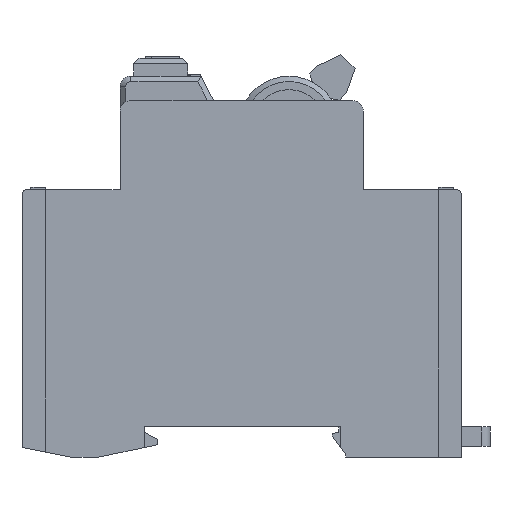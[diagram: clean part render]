
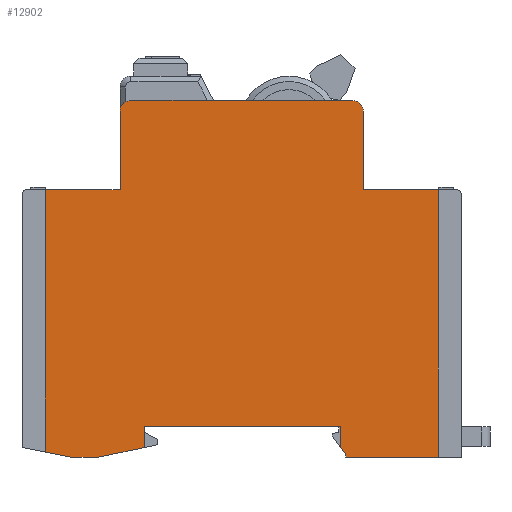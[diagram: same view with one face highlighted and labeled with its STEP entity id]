
A CAD part, left-side view. The second image highlights one B-rep face of the part: STEP entity #12902.
In plain terms, the highlighted planar face has unit normal (-1, 0, 0).
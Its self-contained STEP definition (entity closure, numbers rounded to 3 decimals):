
#23 = DIRECTION ( 'NONE',  ( 0., 0., 1. ) ) ;
#24 = DIRECTION ( 'NONE',  ( -1., 0., 0. ) ) ;
#25 = DIRECTION ( 'NONE',  ( 0., 0., -1. ) ) ;
#26 = CARTESIAN_POINT ( 'NONE',  ( -18., -22.5, 16.5 ) ) ;
#27 = LINE ( 'NONE', #26, #11887 ) ;
#28 = DIRECTION ( 'NONE',  ( 0., -1., 0. ) ) ;
#29 = CARTESIAN_POINT ( 'NONE',  ( -18., -40.65, 33. ) ) ;
#30 = LINE ( 'NONE', #29, #11902 ) ;
#31 = CARTESIAN_POINT ( 'NONE',  ( -18., -20.5, 31. ) ) ;
#32 = DIRECTION ( 'NONE',  ( 0., 0., 1. ) ) ;
#33 = DIRECTION ( 'NONE',  ( -1., 0., 0. ) ) ;
#34 = DIRECTION ( 'NONE',  ( 0., 0., -1. ) ) ;
#35 = CARTESIAN_POINT ( 'NONE',  ( -18., 22.5, 16.5 ) ) ;
#36 = LINE ( 'NONE', #35, #11939 ) ;
#37 = DIRECTION ( 'NONE',  ( 0., 0., 1. ) ) ;
#38 = CARTESIAN_POINT ( 'NONE',  ( -18., 36.35, -33. ) ) ;
#39 = LINE ( 'NONE', #38, #11901 ) ;
#40 = DIRECTION ( 'NONE',  ( 0., -0.981, -0.196 ) ) ;
#41 = CARTESIAN_POINT ( 'NONE',  ( -18., 31.65, -33. ) ) ;
#43 = LINE ( 'NONE', #41, #12265 ) ;
#44 = DIRECTION ( 'NONE',  ( 0., 1., 0. ) ) ;
#45 = CARTESIAN_POINT ( 'NONE',  ( -18., -40.65, -33. ) ) ;
#46 = LINE ( 'NONE', #45, #12266 ) ;
#47 = DIRECTION ( 'NONE',  ( 0., -0.979, 0.205 ) ) ;
#48 = CARTESIAN_POINT ( 'NONE',  ( -18., 26.5, -33. ) ) ;
#49 = LINE ( 'NONE', #48, #11917 ) ;
#50 = DIRECTION ( 'NONE',  ( 0., 0., 1. ) ) ;
#51 = CARTESIAN_POINT ( 'NONE',  ( -18., 18., -28.4 ) ) ;
#52 = LINE ( 'NONE', #51, #12204 ) ;
#53 = DIRECTION ( 'NONE',  ( 0., -1., 0. ) ) ;
#54 = CARTESIAN_POINT ( 'NONE',  ( -18., 18., -27.4 ) ) ;
#55 = LINE ( 'NONE', #54, #12272 ) ;
#56 = DIRECTION ( 'NONE',  ( 0., 0., 1. ) ) ;
#57 = CARTESIAN_POINT ( 'NONE',  ( -18., -18.3, -44.845 ) ) ;
#58 = LINE ( 'NONE', #57, #12409 ) ;
#59 = DIRECTION ( 'NONE',  ( 0., -0.592, -0.806 ) ) ;
#60 = CARTESIAN_POINT ( 'NONE',  ( -18., -16.8, -29.1 ) ) ;
#61 = LINE ( 'NONE', #60, #12442 ) ;
#62 = DIRECTION ( 'NONE',  ( 0., 0., -1. ) ) ;
#63 = CARTESIAN_POINT ( 'NONE',  ( -18., -19.3, -32.5 ) ) ;
#64 = LINE ( 'NONE', #63, #12193 ) ;
#65 = DIRECTION ( 'NONE',  ( 0., 1., 0. ) ) ;
#66 = CARTESIAN_POINT ( 'NONE',  ( -18., -40.65, -33. ) ) ;
#67 = LINE ( 'NONE', #66, #12575 ) ;
#68 = DIRECTION ( 'NONE',  ( 0., 0., 1. ) ) ;
#69 = CARTESIAN_POINT ( 'NONE',  ( -18., -36.35, -33. ) ) ;
#70 = LINE ( 'NONE', #69, #11933 ) ;
#89 = CARTESIAN_POINT ( 'NONE',  ( -18., 20.5, 31. ) ) ;
#5627 = DIRECTION ( 'NONE',  ( 0., -1., 0. ) ) ;
#5628 = CARTESIAN_POINT ( 'NONE',  ( -18., -40.65, 16.5 ) ) ;
#5629 = LINE ( 'NONE', #5628, #16456 ) ;
#5956 = DIRECTION ( 'NONE',  ( 0., 0., 1. ) ) ;
#5957 = DIRECTION ( 'NONE',  ( -1., 0., 0. ) ) ;
#5958 = CARTESIAN_POINT ( 'NONE',  ( -18., 0., 0. ) ) ;
#5959 = PLANE ( 'NONE',  #16535 ) ;
#6145 = CARTESIAN_POINT ( 'NONE',  ( -18., -22.5, 16.5 ) ) ;
#6146 = CARTESIAN_POINT ( 'NONE',  ( -18., -36.35, 16.5 ) ) ;
#6177 = CARTESIAN_POINT ( 'NONE',  ( -18., 36.35, 16.5 ) ) ;
#6178 = CARTESIAN_POINT ( 'NONE',  ( -18., 22.5, 16.5 ) ) ;
#6209 = CARTESIAN_POINT ( 'NONE',  ( -18., -22.5, 31. ) ) ;
#6210 = CARTESIAN_POINT ( 'NONE',  ( -18., -20.5, 33. ) ) ;
#6211 = CARTESIAN_POINT ( 'NONE',  ( -18., 20.5, 33. ) ) ;
#6212 = CARTESIAN_POINT ( 'NONE',  ( -18., 22.5, 31. ) ) ;
#6213 = CARTESIAN_POINT ( 'NONE',  ( -18., 36.35, -32.06 ) ) ;
#6214 = CARTESIAN_POINT ( 'NONE',  ( -18., 31.65, -33. ) ) ;
#6215 = CARTESIAN_POINT ( 'NONE',  ( -18., 26.5, -33. ) ) ;
#6216 = CARTESIAN_POINT ( 'NONE',  ( -18., 18., -31.223 ) ) ;
#6217 = CARTESIAN_POINT ( 'NONE',  ( -18., 18., -27.4 ) ) ;
#6218 = CARTESIAN_POINT ( 'NONE',  ( -18., -18.3, -27.4 ) ) ;
#6219 = CARTESIAN_POINT ( 'NONE',  ( -18., -18.3, -31.14 ) ) ;
#6220 = CARTESIAN_POINT ( 'NONE',  ( -18., -19.3, -32.5 ) ) ;
#6221 = CARTESIAN_POINT ( 'NONE',  ( -18., -19.3, -33. ) ) ;
#6222 = CARTESIAN_POINT ( 'NONE',  ( -18., -36.35, -33. ) ) ;
#6752 = EDGE_LOOP ( 'NONE', ( #8348, #8346, #8347, #8345, #8344, #8343, #8342, #8340, #8341, #8339, #8338, #8337, #8336, #8335, #8334, #8333, #8332, #8331 ) ) ;
#7094 = LINE ( 'NONE', #7095, #11924 ) ;
#7095 = CARTESIAN_POINT ( 'NONE',  ( -18., 40.65, 16.5 ) ) ;
#7096 = DIRECTION ( 'NONE',  ( 0., 1., 0. ) ) ;
#8331 = ORIENTED_EDGE ( 'NONE', *, *, #12943, .F. ) ;
#8332 = ORIENTED_EDGE ( 'NONE', *, *, #13211, .T. ) ;
#8333 = ORIENTED_EDGE ( 'NONE', *, *, #13212, .F. ) ;
#8334 = ORIENTED_EDGE ( 'NONE', *, *, #13213, .T. ) ;
#8335 = ORIENTED_EDGE ( 'NONE', *, *, #13214, .T. ) ;
#8336 = ORIENTED_EDGE ( 'NONE', *, *, #13215, .F. ) ;
#8337 = ORIENTED_EDGE ( 'NONE', *, *, #13216, .T. ) ;
#8338 = ORIENTED_EDGE ( 'NONE', *, *, #13217, .T. ) ;
#8339 = ORIENTED_EDGE ( 'NONE', *, *, #13218, .T. ) ;
#8340 = ORIENTED_EDGE ( 'NONE', *, *, #13220, .T. ) ;
#8341 = ORIENTED_EDGE ( 'NONE', *, *, #13219, .F. ) ;
#8342 = ORIENTED_EDGE ( 'NONE', *, *, #13221, .F. ) ;
#8343 = ORIENTED_EDGE ( 'NONE', *, *, #13273, .T. ) ;
#8344 = ORIENTED_EDGE ( 'NONE', *, *, #13222, .T. ) ;
#8345 = ORIENTED_EDGE ( 'NONE', *, *, #13223, .T. ) ;
#8346 = ORIENTED_EDGE ( 'NONE', *, *, #13226, .T. ) ;
#8347 = ORIENTED_EDGE ( 'NONE', *, *, #13224, .F. ) ;
#8348 = ORIENTED_EDGE ( 'NONE', *, *, #13225, .F. ) ;
#9690 = VERTEX_POINT ( 'NONE', #6222 ) ;
#9691 = VERTEX_POINT ( 'NONE', #6221 ) ;
#9692 = VERTEX_POINT ( 'NONE', #6220 ) ;
#9693 = VERTEX_POINT ( 'NONE', #6219 ) ;
#9694 = VERTEX_POINT ( 'NONE', #6218 ) ;
#9695 = VERTEX_POINT ( 'NONE', #6217 ) ;
#9696 = VERTEX_POINT ( 'NONE', #6216 ) ;
#9697 = VERTEX_POINT ( 'NONE', #6215 ) ;
#9698 = VERTEX_POINT ( 'NONE', #6214 ) ;
#9699 = VERTEX_POINT ( 'NONE', #6213 ) ;
#9700 = VERTEX_POINT ( 'NONE', #6212 ) ;
#9701 = VERTEX_POINT ( 'NONE', #6211 ) ;
#9702 = VERTEX_POINT ( 'NONE', #6210 ) ;
#9703 = VERTEX_POINT ( 'NONE', #6209 ) ;
#9735 = VERTEX_POINT ( 'NONE', #6178 ) ;
#9736 = VERTEX_POINT ( 'NONE', #6177 ) ;
#9767 = VERTEX_POINT ( 'NONE', #6146 ) ;
#9768 = VERTEX_POINT ( 'NONE', #6145 ) ;
#11887 = VECTOR ( 'NONE', #25, 1000. ) ;
#11893 = AXIS2_PLACEMENT_3D ( 'NONE', #31, #24, #23 ) ;
#11901 = VECTOR ( 'NONE', #37, 1000. ) ;
#11902 = VECTOR ( 'NONE', #28, 1000. ) ;
#11917 = VECTOR ( 'NONE', #47, 1000. ) ;
#11924 = VECTOR ( 'NONE', #7096, 1000. ) ;
#11933 = VECTOR ( 'NONE', #68, 1000. ) ;
#11939 = VECTOR ( 'NONE', #34, 1000. ) ;
#12193 = VECTOR ( 'NONE', #62, 1000. ) ;
#12204 = VECTOR ( 'NONE', #50, 1000. ) ;
#12265 = VECTOR ( 'NONE', #40, 1000. ) ;
#12266 = VECTOR ( 'NONE', #44, 1000. ) ;
#12272 = VECTOR ( 'NONE', #53, 1000. ) ;
#12409 = VECTOR ( 'NONE', #56, 1000. ) ;
#12442 = VECTOR ( 'NONE', #59, 1000. ) ;
#12575 = VECTOR ( 'NONE', #65, 1000. ) ;
#12890 = AXIS2_PLACEMENT_3D ( 'NONE', #89, #33, #32 ) ;
#12902 = ADVANCED_FACE ( 'NONE', ( #16368 ), #5959, .T. ) ;
#12943 = EDGE_CURVE ( 'NONE', #9768, #9767, #5629, .T. ) ;
#13211 = EDGE_CURVE ( 'NONE', #9690, #9767, #70, .T. ) ;
#13212 = EDGE_CURVE ( 'NONE', #9690, #9691, #67, .T. ) ;
#13213 = EDGE_CURVE ( 'NONE', #9692, #9691, #64, .T. ) ;
#13214 = EDGE_CURVE ( 'NONE', #9693, #9692, #61, .T. ) ;
#13215 = EDGE_CURVE ( 'NONE', #9693, #9694, #58, .T. ) ;
#13216 = EDGE_CURVE ( 'NONE', #9695, #9694, #55, .T. ) ;
#13217 = EDGE_CURVE ( 'NONE', #9696, #9695, #52, .T. ) ;
#13218 = EDGE_CURVE ( 'NONE', #9697, #9696, #49, .T. ) ;
#13219 = EDGE_CURVE ( 'NONE', #9697, #9698, #46, .T. ) ;
#13220 = EDGE_CURVE ( 'NONE', #9699, #9698, #43, .T. ) ;
#13221 = EDGE_CURVE ( 'NONE', #9699, #9736, #39, .T. ) ;
#13222 = EDGE_CURVE ( 'NONE', #9700, #9735, #36, .T. ) ;
#13223 = EDGE_CURVE ( 'NONE', #9701, #9700, #13334, .T. ) ;
#13224 = EDGE_CURVE ( 'NONE', #9701, #9702, #30, .T. ) ;
#13225 = EDGE_CURVE ( 'NONE', #9703, #9768, #27, .T. ) ;
#13226 = EDGE_CURVE ( 'NONE', #9703, #9702, #13335, .T. ) ;
#13273 = EDGE_CURVE ( 'NONE', #9735, #9736, #7094, .T. ) ;
#13334 = CIRCLE ( 'NONE', #12890, 2. ) ;
#13335 = CIRCLE ( 'NONE', #11893, 2. ) ;
#16368 = FACE_OUTER_BOUND ( 'NONE', #6752, .T. ) ;
#16456 = VECTOR ( 'NONE', #5627, 1000. ) ;
#16535 = AXIS2_PLACEMENT_3D ( 'NONE', #5958, #5957, #5956 ) ;
